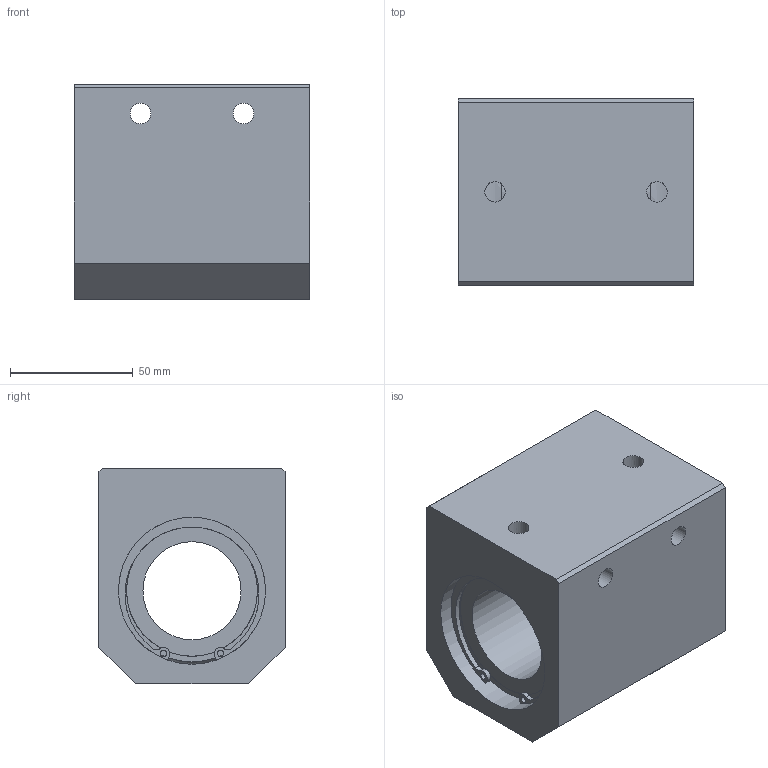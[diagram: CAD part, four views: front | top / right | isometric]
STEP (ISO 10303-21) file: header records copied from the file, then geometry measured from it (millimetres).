
FILE_DESCRIPTION((''),'2;1');
FILE_NAME('D:\製品 (図面)\カタログ用3D\リニアベアリング関連(改)\STEP形式\CH\CH40.stp','2010-01-25T09:36:07',('Tsuchiya'),(''),'Autodesk Inventor 10','Autodesk Inventor 10','');
FILE_SCHEMA(('AUTOMOTIVE_DESIGN { 1 0 10303 214 1 1 1 1 }'));
Length unit declared in the file: millimetre
Products named in the file (1): CH40
Bounding box: 96 x 76 x 88 mm (x, y, z)
Volume: 461007.8 mm3; surface area: 63115.7 mm2
Topology: 1 solids, 1 shells, 75 faces, 199 edges, 124 vertices
Faces by surface type: plane 33, bspline 22, cylinder 18, torus 2
Full cylindrical faces by diameter (mm): 2.5 x2, 40 x1, 53.4 x2, 57 x2, 60 x4
Entity records: 2430 total; most frequent: CARTESIAN_POINT 726, DIRECTION 360, ORIENTED_EDGE 316, EDGE_CURVE 158, AXIS2_PLACEMENT_3D 154, EDGE_LOOP 118, VERTEX_POINT 106, CIRCLE 100
